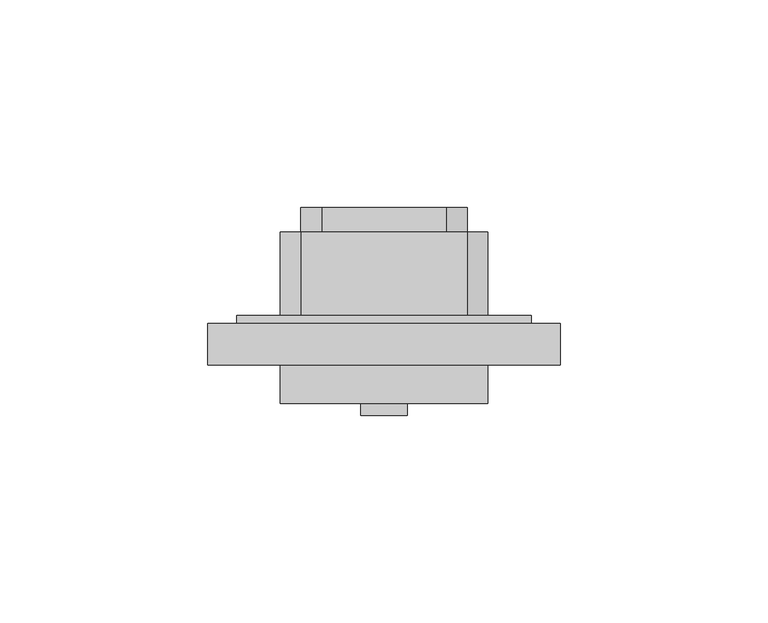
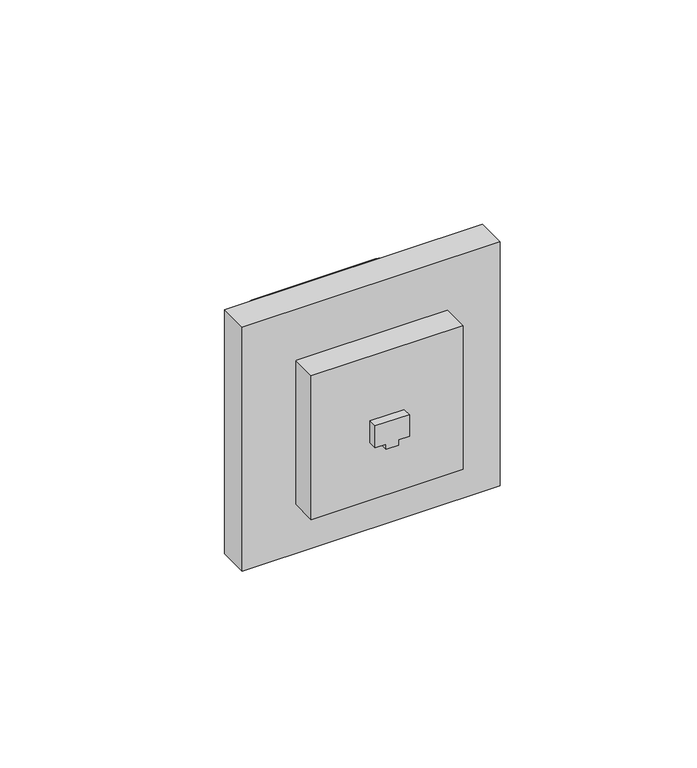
"""IFC4 building model written with IfcOpenShell, lengths in millimetres: proxy geometry, AI_Instal elec_Prise RJ45 : RJ 45 Murale."""

from ifc_helpers import new_model, si_unit, point, frame, frame_2d, origin, origin_2d, place, context, project, spatial, polyline, circle_curve, trimmed, segment, composite_curve, outline, extrude, source, transform, mapped, element, save


def electrical_fixtures_a85d9f51(model_context):
    return source(origin(), model_context, "Body", "SweptSolid", [
        extrude(outline(composite_curve([segment(polyline([(15.0, -20.0), (-17.0, -20.0)]), True, "CONTINUOUS"), segment(trimmed(circle_curve(frame_2d((-17.0, -15.0)), 5.0), [point((-17.0, -20.0))], [point((-22.0, -15.0))], False, "CARTESIAN"), True, "CONTINUOUS"), segment(polyline([(-22.0, -15.0), (-22.0, 15.0)]), True, "CONTINUOUS"), segment(trimmed(circle_curve(frame_2d((-17.0, 15.0)), 5.0), [point((-22.0, 15.0))], [point((-17.0, 20.0))], False, "CARTESIAN"), True, "CONTINUOUS"), segment(polyline([(-17.0, 20.0), (15.0, 20.0)]), True, "CONTINUOUS"), segment(trimmed(circle_curve(frame_2d((15.0, 15.0)), 5.0), [point((15.0, 20.0))], [point((20.0, 15.0))], False, "CARTESIAN"), True, "CONTINUOUS"), segment(polyline([(20.0, 15.0), (20.0, -15.0)]), True, "CONTINUOUS"), segment(trimmed(circle_curve(frame_2d((15.0, -15.0)), 5.0), [point((20.0, -15.0))], [point((15.0, -20.0))], False, "CARTESIAN"), True, "CONTINUOUS")], self_intersect=False)), frame((0.0, 22.0, 0.0), z_axis=(0.0, 1.0, 0.0), x_axis=(0.0, 0.0, 1.0)), (0.0, 0.0, 1.0), 6.0),
        extrude(outline(polyline([(-35.5, 0.0), (-35.5, 2.0), (35.5, 2.0), (35.5, 0.0), (-35.5, 0.0)])), frame((0.0, 0.0, -35.5), z_axis=(0.0, 0.0, 1.0), x_axis=(1.0, 0.0, 0.0)), (0.0, 0.0, 1.0), 71.0),
        extrude(outline(composite_curve([segment(polyline([(20.0, -25.0), (-20.0, -25.0)]), True, "CONTINUOUS"), segment(trimmed(circle_curve(frame_2d((-20.0, -20.0)), 5.0), [point((-20.0, -25.0))], [point((-25.0, -20.0))], False, "CARTESIAN"), True, "CONTINUOUS"), segment(polyline([(-25.0, -20.0), (-25.0, 20.0)]), True, "CONTINUOUS"), segment(trimmed(circle_curve(frame_2d((-20.0, 20.0)), 5.0), [point((-25.0, 20.0))], [point((-20.0, 25.0))], False, "CARTESIAN"), True, "CONTINUOUS"), segment(polyline([(-20.0, 25.0), (20.0, 25.0)]), True, "CONTINUOUS"), segment(trimmed(circle_curve(frame_2d((20.0, 20.0)), 5.0), [point((20.0, 25.0))], [point((25.0, 20.0))], False, "CARTESIAN"), True, "CONTINUOUS"), segment(polyline([(25.0, 20.0), (25.0, -20.0)]), True, "CONTINUOUS"), segment(trimmed(circle_curve(frame_2d((20.0, -20.0)), 5.0), [point((25.0, -20.0))], [point((20.0, -25.0))], False, "CARTESIAN"), True, "CONTINUOUS")], self_intersect=False)), frame((0.0, 2.0, 0.0), z_axis=(0.0, 1.0, 0.0), x_axis=(0.0, 0.0, 1.0)), (0.0, 0.0, 1.0), 20.0),
        extrude(outline(polyline([(-42.5, -10.0), (-42.5, 0.0), (42.5, 0.0), (42.5, -10.0), (-42.5, -10.0)])), frame((0.0, 0.0, -42.5), z_axis=(0.0, 0.0, 1.0), x_axis=(1.0, 0.0, 0.0)), (0.0, 0.0, 1.0), 85.0),
        extrude(outline(polyline([(2.5682168, -5.6016634), (-5.0061166, -5.6016634), (-5.0061166, -2.0910502), (-6.781351, -2.0910502), (-6.781351, 2.0910502), (-5.0061166, 2.0910502), (-5.0061166, 5.6016634), (2.5682168, 5.6016634), (2.5682168, -5.6016634)])), frame((0.0, -22.1695427, 0.0), z_axis=(0.0, 1.0, 0.0), x_axis=(0.0, 0.0, 1.0)), (0.0, 0.0, 1.0), 2.9208408),
        extrude(outline(polyline([(-25.0, -19.2487018), (-25.0, -10.0), (25.0, -10.0), (25.0, -19.2487018), (-25.0, -19.2487018)])), frame((0.0, 0.0, -25.0), z_axis=(0.0, 0.0, 1.0), x_axis=(1.0, 0.0, 0.0)), (0.0, 0.0, 1.0), 50.0),
        extrude(outline(composite_curve([segment(trimmed(circle_curve(origin_2d(), 10.0), [point((0.0, -10.0))], [point((0.0, 10.0))], False, "CARTESIAN"), True, "CONTINUOUS"), segment(trimmed(circle_curve(origin_2d(), 10.0), [point((0.0, 10.0))], [point((0.0, -10.0))], False, "CARTESIAN"), True, "CONTINUOUS")], self_intersect=False)), frame((0.0, -10.0, 0.0), z_axis=(0.0, 1.0, 0.0), x_axis=(0.0, 0.0, 1.0)), (0.0, 0.0, 1.0), 10.0),
    ])


if __name__ == "__main__":
    model = new_model("IFC4")
    model_context = context("Model", 3, world=origin())
    ifc_project = project(units=[si_unit("LENGTHUNIT", "METRE", prefix="MILLI")], contexts=[model_context])
    site = spatial("IfcSite", under=ifc_project)
    building = spatial("IfcBuilding", under=site)
    placement = place(None, origin())
    electrical_fixtures_shape = electrical_fixtures_a85d9f51(model_context)
    element("IfcBuildingElementProxy", 1, Name="AI_Instal elec_Prise RJ45 : RJ 45 Murale", ObjectType="AI_Instal elec_Prise RJ45 : RJ 45 Murale", at=placement, inside=building, context=model_context, shape_type="MappedRepresentation", body=[
        mapped(electrical_fixtures_shape, transform((0.0, 0.0, 0.0), x_axis=(1.0, 0.0, 0.0), y_axis=(0.0, 1.0, 0.0), z_axis=(0.0, 0.0, 1.0))),
    ])
    save(model, "model.ifc")
